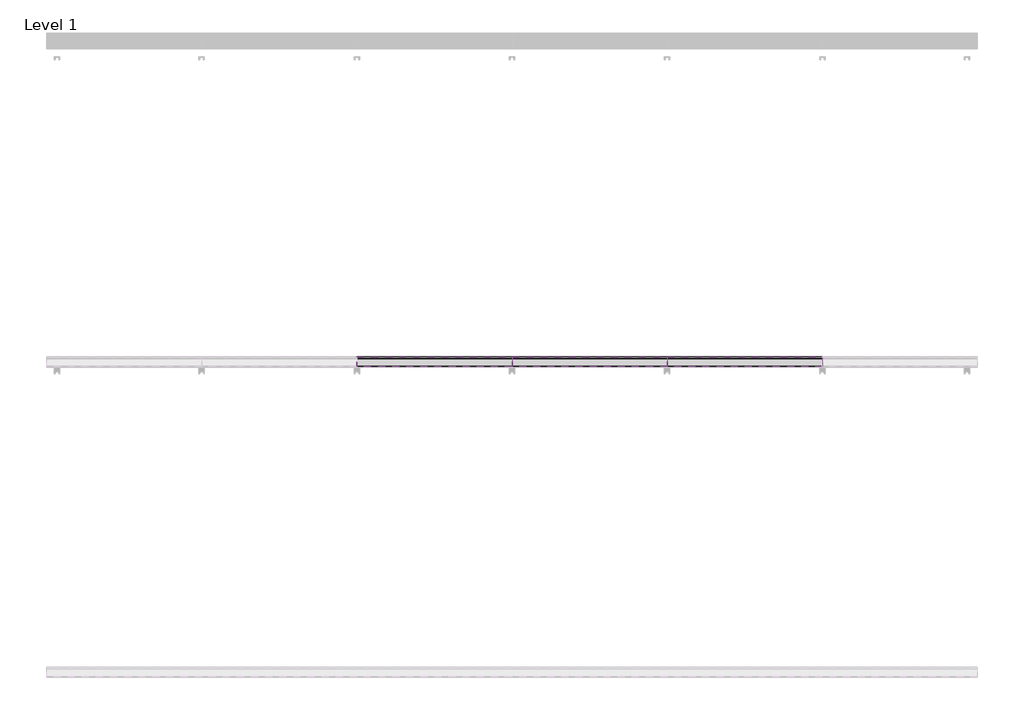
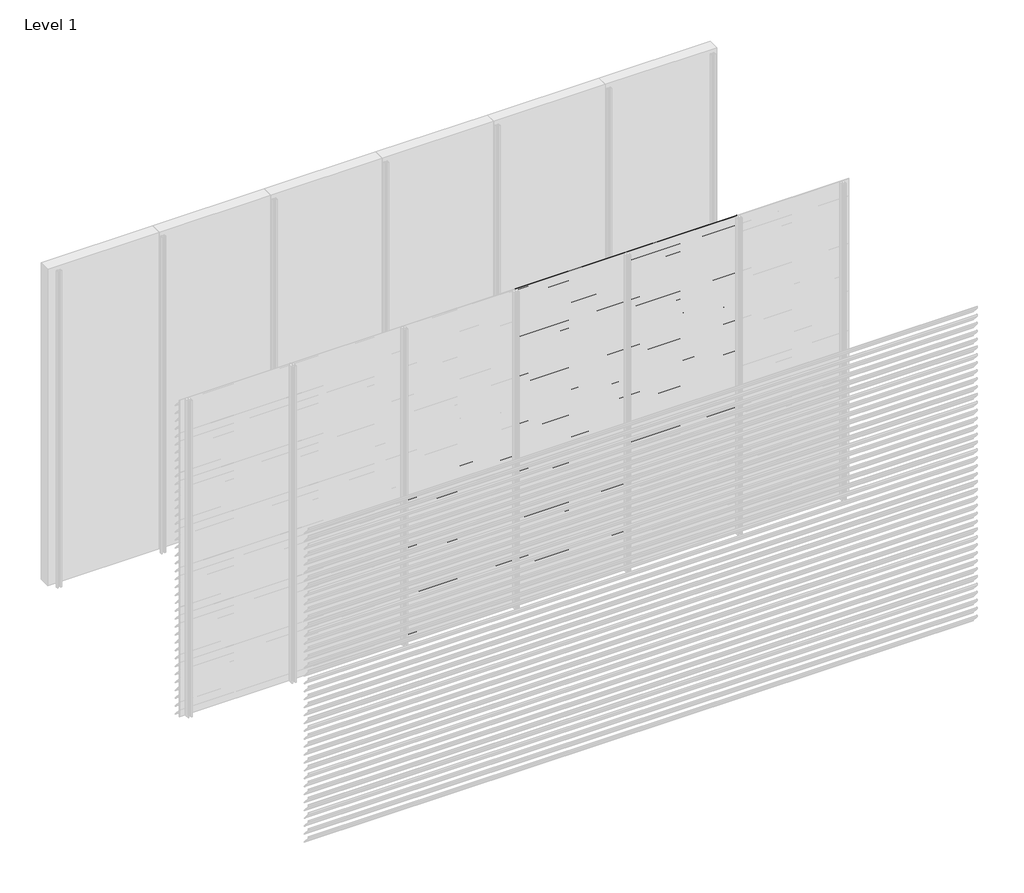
# One storey, part 28 of 35: 86 proxies.
"""IFC4 building model written with IfcOpenShell, lengths in millimetres."""

from ifc_helpers import new_model, si_unit, frame, origin, place, context, project, spatial, polyline, outline, extrude, element, save

model = new_model("IFC4")

# Units and contexts
model_context = context("Model", 3, world=origin())
ifc_project = project(units=[si_unit("LENGTHUNIT", "METRE", prefix="MILLI")], contexts=[model_context])

# Site, building, storey
site = spatial("IfcSite", under=ifc_project)
building = spatial("IfcBuilding", under=site)
storey = spatial("IfcBuildingStorey", under=building, Name="Level 1", Elevation=0.0)

# Proxies
placement = place(None, origin())
element("IfcBuildingElementProxy", 1, Name="Wall Sweeps", at=placement, inside=storey, context=model_context, shape_type="SweptSolid", body=[
    extrude(outline(polyline([(-11996.5, 1575.0), (-11996.5, 1560.5463701), (-11934.5, 1488.9330051), (-11934.5, 1485.4), (-11936.0, 1485.4), (-11936.0, 1488.3738975), (-11998.0, 1559.9872626), (-11998.0, 1575.0), (-11996.5, 1575.0)])), frame((2000.0, 0.0, 0.0), z_axis=(1.0, 0.0, 0.0), x_axis=(0.0, 1.0, 0.0)), (0.0, 0.0, 1.0), 1000.0),
])
element("IfcBuildingElementProxy", 2, Name="Wall Sweeps", at=placement, inside=storey, context=model_context, shape_type="SweptSolid", body=[
    extrude(outline(polyline([(-11996.5, 1500.0), (-11996.5, 1485.5463701), (-11934.5, 1413.9330051), (-11934.5, 1410.4), (-11936.0, 1410.4), (-11936.0, 1413.3738975), (-11998.0, 1484.9872626), (-11998.0, 1500.0), (-11996.5, 1500.0)])), frame((2000.0, 0.0, 0.0), z_axis=(1.0, 0.0, 0.0), x_axis=(0.0, 1.0, 0.0)), (0.0, 0.0, 1.0), 1000.0),
])
element("IfcBuildingElementProxy", 3, Name="Wall Sweeps", at=placement, inside=storey, context=model_context, shape_type="SweptSolid", body=[
    extrude(outline(polyline([(-11996.5, 1425.0), (-11996.5, 1410.5463701), (-11934.5, 1338.9330051), (-11934.5, 1335.4), (-11936.0, 1335.4), (-11936.0, 1338.3738975), (-11998.0, 1409.9872626), (-11998.0, 1425.0), (-11996.5, 1425.0)])), frame((2000.0, 0.0, 0.0), z_axis=(1.0, 0.0, 0.0), x_axis=(0.0, 1.0, 0.0)), (0.0, 0.0, 1.0), 1000.0),
])
element("IfcBuildingElementProxy", 4, Name="Wall Sweeps", at=placement, inside=storey, context=model_context, shape_type="SweptSolid", body=[
    extrude(outline(polyline([(-11996.5, 1350.0), (-11996.5, 1335.5463701), (-11934.5, 1263.9330051), (-11934.5, 1260.4), (-11936.0, 1260.4), (-11936.0, 1263.3738975), (-11998.0, 1334.9872626), (-11998.0, 1350.0), (-11996.5, 1350.0)])), frame((2000.0, 0.0, 0.0), z_axis=(1.0, 0.0, 0.0), x_axis=(0.0, 1.0, 0.0)), (0.0, 0.0, 1.0), 1000.0),
])
element("IfcBuildingElementProxy", 5, Name="Wall Sweeps", at=placement, inside=storey, context=model_context, shape_type="SweptSolid", body=[
    extrude(outline(polyline([(-11996.5, 1275.0), (-11996.5, 1260.5463701), (-11934.5, 1188.9330051), (-11934.5, 1185.4), (-11936.0, 1185.4), (-11936.0, 1188.3738975), (-11998.0, 1259.9872626), (-11998.0, 1275.0), (-11996.5, 1275.0)])), frame((2000.0, 0.0, 0.0), z_axis=(1.0, 0.0, 0.0), x_axis=(0.0, 1.0, 0.0)), (0.0, 0.0, 1.0), 1000.0),
])
element("IfcBuildingElementProxy", 6, Name="Wall Sweeps", at=placement, inside=storey, context=model_context, shape_type="SweptSolid", body=[
    extrude(outline(polyline([(-11996.5, 1200.0), (-11996.5, 1185.5463701), (-11934.5, 1113.9330051), (-11934.5, 1110.4), (-11936.0, 1110.4), (-11936.0, 1113.3738975), (-11998.0, 1184.9872626), (-11998.0, 1200.0), (-11996.5, 1200.0)])), frame((2000.0, 0.0, 0.0), z_axis=(1.0, 0.0, 0.0), x_axis=(0.0, 1.0, 0.0)), (0.0, 0.0, 1.0), 1000.0),
])
element("IfcBuildingElementProxy", 7, Name="Wall Sweeps", at=placement, inside=storey, context=model_context, shape_type="SweptSolid", body=[
    extrude(outline(polyline([(-11996.5, 1125.0), (-11996.5, 1110.5463701), (-11934.5, 1038.9330051), (-11934.5, 1035.4), (-11936.0, 1035.4), (-11936.0, 1038.3738975), (-11998.0, 1109.9872626), (-11998.0, 1125.0), (-11996.5, 1125.0)])), frame((2000.0, 0.0, 0.0), z_axis=(1.0, 0.0, 0.0), x_axis=(0.0, 1.0, 0.0)), (0.0, 0.0, 1.0), 1000.0),
])
element("IfcBuildingElementProxy", 8, Name="Wall Sweeps", at=placement, inside=storey, context=model_context, shape_type="SweptSolid", body=[
    extrude(outline(polyline([(-11996.5, 1050.0), (-11996.5, 1035.5463701), (-11934.5, 963.9330051), (-11934.5, 960.4), (-11936.0, 960.4), (-11936.0, 963.3738975), (-11998.0, 1034.9872626), (-11998.0, 1050.0), (-11996.5, 1050.0)])), frame((2000.0, 0.0, 0.0), z_axis=(1.0, 0.0, 0.0), x_axis=(0.0, 1.0, 0.0)), (0.0, 0.0, 1.0), 1000.0),
])
element("IfcBuildingElementProxy", 9, Name="Wall Sweeps", at=placement, inside=storey, context=model_context, shape_type="SweptSolid", body=[
    extrude(outline(polyline([(-11996.5, 975.0), (-11996.5, 960.5463701), (-11934.5, 888.9330051), (-11934.5, 885.4), (-11936.0, 885.4), (-11936.0, 888.3738975), (-11998.0, 959.9872626), (-11998.0, 975.0), (-11996.5, 975.0)])), frame((2000.0, 0.0, 0.0), z_axis=(1.0, 0.0, 0.0), x_axis=(0.0, 1.0, 0.0)), (0.0, 0.0, 1.0), 1000.0),
])
element("IfcBuildingElementProxy", 10, Name="Wall Sweeps", at=placement, inside=storey, context=model_context, shape_type="SweptSolid", body=[
    extrude(outline(polyline([(-11996.5, 900.0), (-11996.5, 885.5463701), (-11934.5, 813.9330051), (-11934.5, 810.4), (-11936.0, 810.4), (-11936.0, 813.3738975), (-11998.0, 884.9872626), (-11998.0, 900.0), (-11996.5, 900.0)])), frame((2000.0, 0.0, 0.0), z_axis=(1.0, 0.0, 0.0), x_axis=(0.0, 1.0, 0.0)), (0.0, 0.0, 1.0), 1000.0),
])
element("IfcBuildingElementProxy", 11, Name="Wall Sweeps", at=placement, inside=storey, context=model_context, shape_type="SweptSolid", body=[
    extrude(outline(polyline([(-11996.5, 825.0), (-11996.5, 810.5463701), (-11934.5, 738.9330051), (-11934.5, 735.4), (-11936.0, 735.4), (-11936.0, 738.3738975), (-11998.0, 809.9872626), (-11998.0, 825.0), (-11996.5, 825.0)])), frame((2000.0, 0.0, 0.0), z_axis=(1.0, 0.0, 0.0), x_axis=(0.0, 1.0, 0.0)), (0.0, 0.0, 1.0), 1000.0),
])
element("IfcBuildingElementProxy", 12, Name="Wall Sweeps", at=placement, inside=storey, context=model_context, shape_type="SweptSolid", body=[
    extrude(outline(polyline([(-11996.5, 750.0), (-11996.5, 735.5463701), (-11934.5, 663.9330051), (-11934.5, 660.4), (-11936.0, 660.4), (-11936.0, 663.3738975), (-11998.0, 734.9872626), (-11998.0, 750.0), (-11996.5, 750.0)])), frame((2000.0, 0.0, 0.0), z_axis=(1.0, 0.0, 0.0), x_axis=(0.0, 1.0, 0.0)), (0.0, 0.0, 1.0), 1000.0),
])
element("IfcBuildingElementProxy", 13, Name="Wall Sweeps", at=placement, inside=storey, context=model_context, shape_type="SweptSolid", body=[
    extrude(outline(polyline([(-11996.5, 675.0), (-11996.5, 660.5463701), (-11934.5, 588.9330051), (-11934.5, 585.4), (-11936.0, 585.4), (-11936.0, 588.3738975), (-11998.0, 659.9872626), (-11998.0, 675.0), (-11996.5, 675.0)])), frame((2000.0, 0.0, 0.0), z_axis=(1.0, 0.0, 0.0), x_axis=(0.0, 1.0, 0.0)), (0.0, 0.0, 1.0), 1000.0),
])
element("IfcBuildingElementProxy", 14, Name="Wall Sweeps", at=placement, inside=storey, context=model_context, shape_type="SweptSolid", body=[
    extrude(outline(polyline([(-11996.5, 600.0), (-11996.5, 585.5463701), (-11934.5, 513.9330051), (-11934.5, 510.4), (-11936.0, 510.4), (-11936.0, 513.3738975), (-11998.0, 584.9872626), (-11998.0, 600.0), (-11996.5, 600.0)])), frame((2000.0, 0.0, 0.0), z_axis=(1.0, 0.0, 0.0), x_axis=(0.0, 1.0, 0.0)), (0.0, 0.0, 1.0), 1000.0),
])
element("IfcBuildingElementProxy", 15, Name="Wall Sweeps", at=placement, inside=storey, context=model_context, shape_type="SweptSolid", body=[
    extrude(outline(polyline([(-11996.5, 525.0), (-11996.5, 510.5463701), (-11934.5, 438.9330051), (-11934.5, 435.4), (-11936.0, 435.4), (-11936.0, 438.3738975), (-11998.0, 509.9872626), (-11998.0, 525.0), (-11996.5, 525.0)])), frame((2000.0, 0.0, 0.0), z_axis=(1.0, 0.0, 0.0), x_axis=(0.0, 1.0, 0.0)), (0.0, 0.0, 1.0), 1000.0),
])
element("IfcBuildingElementProxy", 16, Name="Wall Sweeps", at=placement, inside=storey, context=model_context, shape_type="SweptSolid", body=[
    extrude(outline(polyline([(-11996.5, 450.0), (-11996.5, 435.5463701), (-11934.5, 363.9330051), (-11934.5, 360.4), (-11936.0, 360.4), (-11936.0, 363.3738975), (-11998.0, 434.9872626), (-11998.0, 450.0), (-11996.5, 450.0)])), frame((2000.0, 0.0, 0.0), z_axis=(1.0, 0.0, 0.0), x_axis=(0.0, 1.0, 0.0)), (0.0, 0.0, 1.0), 1000.0),
])
element("IfcBuildingElementProxy", 17, Name="Wall Sweeps", at=placement, inside=storey, context=model_context, shape_type="SweptSolid", body=[
    extrude(outline(polyline([(-11996.5, 375.0), (-11996.5, 360.5463701), (-11934.5, 288.9330051), (-11934.5, 285.4), (-11936.0, 285.4), (-11936.0, 288.3738975), (-11998.0, 359.9872626), (-11998.0, 375.0), (-11996.5, 375.0)])), frame((2000.0, 0.0, 0.0), z_axis=(1.0, 0.0, 0.0), x_axis=(0.0, 1.0, 0.0)), (0.0, 0.0, 1.0), 1000.0),
])
element("IfcBuildingElementProxy", 18, Name="Wall Sweeps", at=placement, inside=storey, context=model_context, shape_type="SweptSolid", body=[
    extrude(outline(polyline([(-11996.5, 300.0), (-11996.5, 285.5463701), (-11934.5, 213.9330051), (-11934.5, 210.4), (-11936.0, 210.4), (-11936.0, 213.3738975), (-11998.0, 284.9872626), (-11998.0, 300.0), (-11996.5, 300.0)])), frame((2000.0, 0.0, 0.0), z_axis=(1.0, 0.0, 0.0), x_axis=(0.0, 1.0, 0.0)), (0.0, 0.0, 1.0), 1000.0),
])
element("IfcBuildingElementProxy", 19, Name="Wall Sweeps", at=placement, inside=storey, context=model_context, shape_type="SweptSolid", body=[
    extrude(outline(polyline([(-11996.5, 225.0), (-11996.5, 210.5463701), (-11934.5, 138.9330051), (-11934.5, 135.4), (-11936.0, 135.4), (-11936.0, 138.3738975), (-11998.0, 209.9872626), (-11998.0, 225.0), (-11996.5, 225.0)])), frame((2000.0, 0.0, 0.0), z_axis=(1.0, 0.0, 0.0), x_axis=(0.0, 1.0, 0.0)), (0.0, 0.0, 1.0), 1000.0),
])
element("IfcBuildingElementProxy", 20, Name="Wall Sweeps", at=placement, inside=storey, context=model_context, shape_type="SweptSolid", body=[
    extrude(outline(polyline([(-11996.5, 150.0), (-11996.5, 135.5463701), (-11934.5, 63.9330051), (-11934.5, 60.4), (-11936.0, 60.4), (-11936.0, 63.3738975), (-11998.0, 134.9872626), (-11998.0, 150.0), (-11996.5, 150.0)])), frame((2000.0, 0.0, 0.0), z_axis=(1.0, 0.0, 0.0), x_axis=(0.0, 1.0, 0.0)), (0.0, 0.0, 1.0), 1000.0),
])
element("IfcBuildingElementProxy", 21, Name="Wall Sweeps", at=placement, inside=storey, context=model_context, shape_type="SweptSolid", body=[
    extrude(outline(polyline([(-11996.5, 75.0), (-11996.5, 60.5463701), (-11934.5, -11.0669949), (-11934.5, -14.6), (-11936.0, -14.6), (-11936.0, -11.6261025), (-11998.0, 59.9872626), (-11998.0, 75.0), (-11996.5, 75.0)])), frame((2000.0, 0.0, 0.0), z_axis=(1.0, 0.0, 0.0), x_axis=(0.0, 1.0, 0.0)), (0.0, 0.0, 1.0), 1000.0),
])
element("IfcBuildingElementProxy", 22, Name="Wall Sweeps", at=placement, inside=storey, context=model_context, shape_type="SweptSolid", body=[
    extrude(outline(polyline([(-11996.5, 3000.0), (-11996.5, 2985.5463701), (-11934.5, 2913.9330051), (-11934.5, 2910.4), (-11936.0, 2910.4), (-11936.0, 2913.3738975), (-11998.0, 2984.9872626), (-11998.0, 3000.0), (-11996.5, 3000.0)])), frame((3000.0, 0.0, 0.0), z_axis=(1.0, 0.0, 0.0), x_axis=(0.0, 1.0, 0.0)), (0.0, 0.0, 1.0), 1000.0),
])
element("IfcBuildingElementProxy", 23, Name="Wall Sweeps", at=placement, inside=storey, context=model_context, shape_type="SweptSolid", body=[
    extrude(outline(polyline([(-11996.5, 2925.0), (-11996.5, 2910.5463701), (-11934.5, 2838.9330051), (-11934.5, 2835.4), (-11936.0, 2835.4), (-11936.0, 2838.3738975), (-11998.0, 2909.9872626), (-11998.0, 2925.0), (-11996.5, 2925.0)])), frame((3000.0, 0.0, 0.0), z_axis=(1.0, 0.0, 0.0), x_axis=(0.0, 1.0, 0.0)), (0.0, 0.0, 1.0), 1000.0),
])
element("IfcBuildingElementProxy", 24, Name="Wall Sweeps", at=placement, inside=storey, context=model_context, shape_type="SweptSolid", body=[
    extrude(outline(polyline([(-11996.5, 2850.0), (-11996.5, 2835.5463701), (-11934.5, 2763.9330051), (-11934.5, 2760.4), (-11936.0, 2760.4), (-11936.0, 2763.3738975), (-11998.0, 2834.9872626), (-11998.0, 2850.0), (-11996.5, 2850.0)])), frame((3000.0, 0.0, 0.0), z_axis=(1.0, 0.0, 0.0), x_axis=(0.0, 1.0, 0.0)), (0.0, 0.0, 1.0), 1000.0),
])
element("IfcBuildingElementProxy", 25, Name="Wall Sweeps", at=placement, inside=storey, context=model_context, shape_type="SweptSolid", body=[
    extrude(outline(polyline([(-11996.5, 2775.0), (-11996.5, 2760.5463701), (-11934.5, 2688.9330051), (-11934.5, 2685.4), (-11936.0, 2685.4), (-11936.0, 2688.3738975), (-11998.0, 2759.9872626), (-11998.0, 2775.0), (-11996.5, 2775.0)])), frame((3000.0, 0.0, 0.0), z_axis=(1.0, 0.0, 0.0), x_axis=(0.0, 1.0, 0.0)), (0.0, 0.0, 1.0), 1000.0),
])
element("IfcBuildingElementProxy", 26, Name="Wall Sweeps", at=placement, inside=storey, context=model_context, shape_type="SweptSolid", body=[
    extrude(outline(polyline([(-11996.5, 2700.0), (-11996.5, 2685.5463701), (-11934.5, 2613.9330051), (-11934.5, 2610.4), (-11936.0, 2610.4), (-11936.0, 2613.3738975), (-11998.0, 2684.9872626), (-11998.0, 2700.0), (-11996.5, 2700.0)])), frame((3000.0, 0.0, 0.0), z_axis=(1.0, 0.0, 0.0), x_axis=(0.0, 1.0, 0.0)), (0.0, 0.0, 1.0), 1000.0),
])
element("IfcBuildingElementProxy", 27, Name="Wall Sweeps", at=placement, inside=storey, context=model_context, shape_type="SweptSolid", body=[
    extrude(outline(polyline([(-11996.5, 2625.0), (-11996.5, 2610.5463701), (-11934.5, 2538.9330051), (-11934.5, 2535.4), (-11936.0, 2535.4), (-11936.0, 2538.3738975), (-11998.0, 2609.9872626), (-11998.0, 2625.0), (-11996.5, 2625.0)])), frame((3000.0, 0.0, 0.0), z_axis=(1.0, 0.0, 0.0), x_axis=(0.0, 1.0, 0.0)), (0.0, 0.0, 1.0), 1000.0),
])
element("IfcBuildingElementProxy", 28, Name="Wall Sweeps", at=placement, inside=storey, context=model_context, shape_type="SweptSolid", body=[
    extrude(outline(polyline([(-11996.5, 2550.0), (-11996.5, 2535.5463701), (-11934.5, 2463.9330051), (-11934.5, 2460.4), (-11936.0, 2460.4), (-11936.0, 2463.3738975), (-11998.0, 2534.9872626), (-11998.0, 2550.0), (-11996.5, 2550.0)])), frame((3000.0, 0.0, 0.0), z_axis=(1.0, 0.0, 0.0), x_axis=(0.0, 1.0, 0.0)), (0.0, 0.0, 1.0), 1000.0),
])
element("IfcBuildingElementProxy", 29, Name="Wall Sweeps", at=placement, inside=storey, context=model_context, shape_type="SweptSolid", body=[
    extrude(outline(polyline([(-11996.5, 2475.0), (-11996.5, 2460.5463701), (-11934.5, 2388.9330051), (-11934.5, 2385.4), (-11936.0, 2385.4), (-11936.0, 2388.3738975), (-11998.0, 2459.9872626), (-11998.0, 2475.0), (-11996.5, 2475.0)])), frame((3000.0, 0.0, 0.0), z_axis=(1.0, 0.0, 0.0), x_axis=(0.0, 1.0, 0.0)), (0.0, 0.0, 1.0), 1000.0),
])
element("IfcBuildingElementProxy", 30, Name="Wall Sweeps", at=placement, inside=storey, context=model_context, shape_type="SweptSolid", body=[
    extrude(outline(polyline([(-11996.5, 2400.0), (-11996.5, 2385.5463701), (-11934.5, 2313.9330051), (-11934.5, 2310.4), (-11936.0, 2310.4), (-11936.0, 2313.3738975), (-11998.0, 2384.9872626), (-11998.0, 2400.0), (-11996.5, 2400.0)])), frame((3000.0, 0.0, 0.0), z_axis=(1.0, 0.0, 0.0), x_axis=(0.0, 1.0, 0.0)), (0.0, 0.0, 1.0), 1000.0),
])
element("IfcBuildingElementProxy", 31, Name="Wall Sweeps", at=placement, inside=storey, context=model_context, shape_type="SweptSolid", body=[
    extrude(outline(polyline([(-11996.5, 2325.0), (-11996.5, 2310.5463701), (-11934.5, 2238.9330051), (-11934.5, 2235.4), (-11936.0, 2235.4), (-11936.0, 2238.3738975), (-11998.0, 2309.9872626), (-11998.0, 2325.0), (-11996.5, 2325.0)])), frame((3000.0, 0.0, 0.0), z_axis=(1.0, 0.0, 0.0), x_axis=(0.0, 1.0, 0.0)), (0.0, 0.0, 1.0), 1000.0),
])
element("IfcBuildingElementProxy", 32, Name="Wall Sweeps", at=placement, inside=storey, context=model_context, shape_type="SweptSolid", body=[
    extrude(outline(polyline([(-11996.5, 2250.0), (-11996.5, 2235.5463701), (-11934.5, 2163.9330051), (-11934.5, 2160.4), (-11936.0, 2160.4), (-11936.0, 2163.3738975), (-11998.0, 2234.9872626), (-11998.0, 2250.0), (-11996.5, 2250.0)])), frame((3000.0, 0.0, 0.0), z_axis=(1.0, 0.0, 0.0), x_axis=(0.0, 1.0, 0.0)), (0.0, 0.0, 1.0), 1000.0),
])
element("IfcBuildingElementProxy", 33, Name="Wall Sweeps", at=placement, inside=storey, context=model_context, shape_type="SweptSolid", body=[
    extrude(outline(polyline([(-11996.5, 2175.0), (-11996.5, 2160.5463701), (-11934.5, 2088.9330051), (-11934.5, 2085.4), (-11936.0, 2085.4), (-11936.0, 2088.3738975), (-11998.0, 2159.9872626), (-11998.0, 2175.0), (-11996.5, 2175.0)])), frame((3000.0, 0.0, 0.0), z_axis=(1.0, 0.0, 0.0), x_axis=(0.0, 1.0, 0.0)), (0.0, 0.0, 1.0), 1000.0),
])
element("IfcBuildingElementProxy", 34, Name="Wall Sweeps", at=placement, inside=storey, context=model_context, shape_type="SweptSolid", body=[
    extrude(outline(polyline([(-11996.5, 2100.0), (-11996.5, 2085.5463701), (-11934.5, 2013.9330051), (-11934.5, 2010.4), (-11936.0, 2010.4), (-11936.0, 2013.3738975), (-11998.0, 2084.9872626), (-11998.0, 2100.0), (-11996.5, 2100.0)])), frame((3000.0, 0.0, 0.0), z_axis=(1.0, 0.0, 0.0), x_axis=(0.0, 1.0, 0.0)), (0.0, 0.0, 1.0), 1000.0),
])
element("IfcBuildingElementProxy", 35, Name="Wall Sweeps", at=placement, inside=storey, context=model_context, shape_type="SweptSolid", body=[
    extrude(outline(polyline([(-11996.5, 2025.0), (-11996.5, 2010.5463701), (-11934.5, 1938.9330051), (-11934.5, 1935.4), (-11936.0, 1935.4), (-11936.0, 1938.3738975), (-11998.0, 2009.9872626), (-11998.0, 2025.0), (-11996.5, 2025.0)])), frame((3000.0, 0.0, 0.0), z_axis=(1.0, 0.0, 0.0), x_axis=(0.0, 1.0, 0.0)), (0.0, 0.0, 1.0), 1000.0),
])
element("IfcBuildingElementProxy", 36, Name="Wall Sweeps", at=placement, inside=storey, context=model_context, shape_type="SweptSolid", body=[
    extrude(outline(polyline([(-11996.5, 1950.0), (-11996.5, 1935.5463701), (-11934.5, 1863.9330051), (-11934.5, 1860.4), (-11936.0, 1860.4), (-11936.0, 1863.3738975), (-11998.0, 1934.9872626), (-11998.0, 1950.0), (-11996.5, 1950.0)])), frame((3000.0, 0.0, 0.0), z_axis=(1.0, 0.0, 0.0), x_axis=(0.0, 1.0, 0.0)), (0.0, 0.0, 1.0), 1000.0),
])
element("IfcBuildingElementProxy", 37, Name="Wall Sweeps", at=placement, inside=storey, context=model_context, shape_type="SweptSolid", body=[
    extrude(outline(polyline([(-11996.5, 1875.0), (-11996.5, 1860.5463701), (-11934.5, 1788.9330051), (-11934.5, 1785.4), (-11936.0, 1785.4), (-11936.0, 1788.3738975), (-11998.0, 1859.9872626), (-11998.0, 1875.0), (-11996.5, 1875.0)])), frame((3000.0, 0.0, 0.0), z_axis=(1.0, 0.0, 0.0), x_axis=(0.0, 1.0, 0.0)), (0.0, 0.0, 1.0), 1000.0),
])
element("IfcBuildingElementProxy", 38, Name="Wall Sweeps", at=placement, inside=storey, context=model_context, shape_type="SweptSolid", body=[
    extrude(outline(polyline([(-11996.5, 1800.0), (-11996.5, 1785.5463701), (-11934.5, 1713.9330051), (-11934.5, 1710.4), (-11936.0, 1710.4), (-11936.0, 1713.3738975), (-11998.0, 1784.9872626), (-11998.0, 1800.0), (-11996.5, 1800.0)])), frame((3000.0, 0.0, 0.0), z_axis=(1.0, 0.0, 0.0), x_axis=(0.0, 1.0, 0.0)), (0.0, 0.0, 1.0), 1000.0),
])
element("IfcBuildingElementProxy", 39, Name="Wall Sweeps", at=placement, inside=storey, context=model_context, shape_type="SweptSolid", body=[
    extrude(outline(polyline([(-11996.5, 1725.0), (-11996.5, 1710.5463701), (-11934.5, 1638.9330051), (-11934.5, 1635.4), (-11936.0, 1635.4), (-11936.0, 1638.3738975), (-11998.0, 1709.9872626), (-11998.0, 1725.0), (-11996.5, 1725.0)])), frame((3000.0, 0.0, 0.0), z_axis=(1.0, 0.0, 0.0), x_axis=(0.0, 1.0, 0.0)), (0.0, 0.0, 1.0), 1000.0),
])
element("IfcBuildingElementProxy", 40, Name="Wall Sweeps", at=placement, inside=storey, context=model_context, shape_type="SweptSolid", body=[
    extrude(outline(polyline([(-11996.5, 1650.0), (-11996.5, 1635.5463701), (-11934.5, 1563.9330051), (-11934.5, 1560.4), (-11936.0, 1560.4), (-11936.0, 1563.3738975), (-11998.0, 1634.9872626), (-11998.0, 1650.0), (-11996.5, 1650.0)])), frame((3000.0, 0.0, 0.0), z_axis=(1.0, 0.0, 0.0), x_axis=(0.0, 1.0, 0.0)), (0.0, 0.0, 1.0), 1000.0),
])
element("IfcBuildingElementProxy", 41, Name="Wall Sweeps", at=placement, inside=storey, context=model_context, shape_type="SweptSolid", body=[
    extrude(outline(polyline([(-11996.5, 1575.0), (-11996.5, 1560.5463701), (-11934.5, 1488.9330051), (-11934.5, 1485.4), (-11936.0, 1485.4), (-11936.0, 1488.3738975), (-11998.0, 1559.9872626), (-11998.0, 1575.0), (-11996.5, 1575.0)])), frame((3000.0, 0.0, 0.0), z_axis=(1.0, 0.0, 0.0), x_axis=(0.0, 1.0, 0.0)), (0.0, 0.0, 1.0), 1000.0),
])
element("IfcBuildingElementProxy", 42, Name="Wall Sweeps", at=placement, inside=storey, context=model_context, shape_type="SweptSolid", body=[
    extrude(outline(polyline([(-11996.5, 1500.0), (-11996.5, 1485.5463701), (-11934.5, 1413.9330051), (-11934.5, 1410.4), (-11936.0, 1410.4), (-11936.0, 1413.3738975), (-11998.0, 1484.9872626), (-11998.0, 1500.0), (-11996.5, 1500.0)])), frame((3000.0, 0.0, 0.0), z_axis=(1.0, 0.0, 0.0), x_axis=(0.0, 1.0, 0.0)), (0.0, 0.0, 1.0), 1000.0),
])
element("IfcBuildingElementProxy", 43, Name="Wall Sweeps", at=placement, inside=storey, context=model_context, shape_type="SweptSolid", body=[
    extrude(outline(polyline([(-11996.5, 1425.0), (-11996.5, 1410.5463701), (-11934.5, 1338.9330051), (-11934.5, 1335.4), (-11936.0, 1335.4), (-11936.0, 1338.3738975), (-11998.0, 1409.9872626), (-11998.0, 1425.0), (-11996.5, 1425.0)])), frame((3000.0, 0.0, 0.0), z_axis=(1.0, 0.0, 0.0), x_axis=(0.0, 1.0, 0.0)), (0.0, 0.0, 1.0), 1000.0),
])
element("IfcBuildingElementProxy", 44, Name="Wall Sweeps", at=placement, inside=storey, context=model_context, shape_type="SweptSolid", body=[
    extrude(outline(polyline([(-11996.5, 1350.0), (-11996.5, 1335.5463701), (-11934.5, 1263.9330051), (-11934.5, 1260.4), (-11936.0, 1260.4), (-11936.0, 1263.3738975), (-11998.0, 1334.9872626), (-11998.0, 1350.0), (-11996.5, 1350.0)])), frame((3000.0, 0.0, 0.0), z_axis=(1.0, 0.0, 0.0), x_axis=(0.0, 1.0, 0.0)), (0.0, 0.0, 1.0), 1000.0),
])
element("IfcBuildingElementProxy", 45, Name="Wall Sweeps", at=placement, inside=storey, context=model_context, shape_type="SweptSolid", body=[
    extrude(outline(polyline([(-11996.5, 1275.0), (-11996.5, 1260.5463701), (-11934.5, 1188.9330051), (-11934.5, 1185.4), (-11936.0, 1185.4), (-11936.0, 1188.3738975), (-11998.0, 1259.9872626), (-11998.0, 1275.0), (-11996.5, 1275.0)])), frame((3000.0, 0.0, 0.0), z_axis=(1.0, 0.0, 0.0), x_axis=(0.0, 1.0, 0.0)), (0.0, 0.0, 1.0), 1000.0),
])
element("IfcBuildingElementProxy", 46, Name="Wall Sweeps", at=placement, inside=storey, context=model_context, shape_type="SweptSolid", body=[
    extrude(outline(polyline([(-11996.5, 1200.0), (-11996.5, 1185.5463701), (-11934.5, 1113.9330051), (-11934.5, 1110.4), (-11936.0, 1110.4), (-11936.0, 1113.3738975), (-11998.0, 1184.9872626), (-11998.0, 1200.0), (-11996.5, 1200.0)])), frame((3000.0, 0.0, 0.0), z_axis=(1.0, 0.0, 0.0), x_axis=(0.0, 1.0, 0.0)), (0.0, 0.0, 1.0), 1000.0),
])
element("IfcBuildingElementProxy", 47, Name="Wall Sweeps", at=placement, inside=storey, context=model_context, shape_type="SweptSolid", body=[
    extrude(outline(polyline([(-11996.5, 1125.0), (-11996.5, 1110.5463701), (-11934.5, 1038.9330051), (-11934.5, 1035.4), (-11936.0, 1035.4), (-11936.0, 1038.3738975), (-11998.0, 1109.9872626), (-11998.0, 1125.0), (-11996.5, 1125.0)])), frame((3000.0, 0.0, 0.0), z_axis=(1.0, 0.0, 0.0), x_axis=(0.0, 1.0, 0.0)), (0.0, 0.0, 1.0), 1000.0),
])
element("IfcBuildingElementProxy", 48, Name="Wall Sweeps", at=placement, inside=storey, context=model_context, shape_type="SweptSolid", body=[
    extrude(outline(polyline([(-11996.5, 1050.0), (-11996.5, 1035.5463701), (-11934.5, 963.9330051), (-11934.5, 960.4), (-11936.0, 960.4), (-11936.0, 963.3738975), (-11998.0, 1034.9872626), (-11998.0, 1050.0), (-11996.5, 1050.0)])), frame((3000.0, 0.0, 0.0), z_axis=(1.0, 0.0, 0.0), x_axis=(0.0, 1.0, 0.0)), (0.0, 0.0, 1.0), 1000.0),
])
element("IfcBuildingElementProxy", 49, Name="Wall Sweeps", at=placement, inside=storey, context=model_context, shape_type="SweptSolid", body=[
    extrude(outline(polyline([(-11996.5, 975.0), (-11996.5, 960.5463701), (-11934.5, 888.9330051), (-11934.5, 885.4), (-11936.0, 885.4), (-11936.0, 888.3738975), (-11998.0, 959.9872626), (-11998.0, 975.0), (-11996.5, 975.0)])), frame((3000.0, 0.0, 0.0), z_axis=(1.0, 0.0, 0.0), x_axis=(0.0, 1.0, 0.0)), (0.0, 0.0, 1.0), 1000.0),
])
element("IfcBuildingElementProxy", 50, Name="Wall Sweeps", at=placement, inside=storey, context=model_context, shape_type="SweptSolid", body=[
    extrude(outline(polyline([(-11996.5, 900.0), (-11996.5, 885.5463701), (-11934.5, 813.9330051), (-11934.5, 810.4), (-11936.0, 810.4), (-11936.0, 813.3738975), (-11998.0, 884.9872626), (-11998.0, 900.0), (-11996.5, 900.0)])), frame((3000.0, 0.0, 0.0), z_axis=(1.0, 0.0, 0.0), x_axis=(0.0, 1.0, 0.0)), (0.0, 0.0, 1.0), 1000.0),
])
element("IfcBuildingElementProxy", 51, Name="Wall Sweeps", at=placement, inside=storey, context=model_context, shape_type="SweptSolid", body=[
    extrude(outline(polyline([(-11996.5, 825.0), (-11996.5, 810.5463701), (-11934.5, 738.9330051), (-11934.5, 735.4), (-11936.0, 735.4), (-11936.0, 738.3738975), (-11998.0, 809.9872626), (-11998.0, 825.0), (-11996.5, 825.0)])), frame((3000.0, 0.0, 0.0), z_axis=(1.0, 0.0, 0.0), x_axis=(0.0, 1.0, 0.0)), (0.0, 0.0, 1.0), 1000.0),
])
element("IfcBuildingElementProxy", 52, Name="Wall Sweeps", at=placement, inside=storey, context=model_context, shape_type="SweptSolid", body=[
    extrude(outline(polyline([(-11996.5, 750.0), (-11996.5, 735.5463701), (-11934.5, 663.9330051), (-11934.5, 660.4), (-11936.0, 660.4), (-11936.0, 663.3738975), (-11998.0, 734.9872626), (-11998.0, 750.0), (-11996.5, 750.0)])), frame((3000.0, 0.0, 0.0), z_axis=(1.0, 0.0, 0.0), x_axis=(0.0, 1.0, 0.0)), (0.0, 0.0, 1.0), 1000.0),
])
element("IfcBuildingElementProxy", 53, Name="Wall Sweeps", at=placement, inside=storey, context=model_context, shape_type="SweptSolid", body=[
    extrude(outline(polyline([(-11996.5, 675.0), (-11996.5, 660.5463701), (-11934.5, 588.9330051), (-11934.5, 585.4), (-11936.0, 585.4), (-11936.0, 588.3738975), (-11998.0, 659.9872626), (-11998.0, 675.0), (-11996.5, 675.0)])), frame((3000.0, 0.0, 0.0), z_axis=(1.0, 0.0, 0.0), x_axis=(0.0, 1.0, 0.0)), (0.0, 0.0, 1.0), 1000.0),
])
element("IfcBuildingElementProxy", 54, Name="Wall Sweeps", at=placement, inside=storey, context=model_context, shape_type="SweptSolid", body=[
    extrude(outline(polyline([(-11996.5, 600.0), (-11996.5, 585.5463701), (-11934.5, 513.9330051), (-11934.5, 510.4), (-11936.0, 510.4), (-11936.0, 513.3738975), (-11998.0, 584.9872626), (-11998.0, 600.0), (-11996.5, 600.0)])), frame((3000.0, 0.0, 0.0), z_axis=(1.0, 0.0, 0.0), x_axis=(0.0, 1.0, 0.0)), (0.0, 0.0, 1.0), 1000.0),
])
element("IfcBuildingElementProxy", 55, Name="Wall Sweeps", at=placement, inside=storey, context=model_context, shape_type="SweptSolid", body=[
    extrude(outline(polyline([(-11996.5, 525.0), (-11996.5, 510.5463701), (-11934.5, 438.9330051), (-11934.5, 435.4), (-11936.0, 435.4), (-11936.0, 438.3738975), (-11998.0, 509.9872626), (-11998.0, 525.0), (-11996.5, 525.0)])), frame((3000.0, 0.0, 0.0), z_axis=(1.0, 0.0, 0.0), x_axis=(0.0, 1.0, 0.0)), (0.0, 0.0, 1.0), 1000.0),
])
element("IfcBuildingElementProxy", 56, Name="Wall Sweeps", at=placement, inside=storey, context=model_context, shape_type="SweptSolid", body=[
    extrude(outline(polyline([(-11996.5, 450.0), (-11996.5, 435.5463701), (-11934.5, 363.9330051), (-11934.5, 360.4), (-11936.0, 360.4), (-11936.0, 363.3738975), (-11998.0, 434.9872626), (-11998.0, 450.0), (-11996.5, 450.0)])), frame((3000.0, 0.0, 0.0), z_axis=(1.0, 0.0, 0.0), x_axis=(0.0, 1.0, 0.0)), (0.0, 0.0, 1.0), 1000.0),
])
element("IfcBuildingElementProxy", 57, Name="Wall Sweeps", at=placement, inside=storey, context=model_context, shape_type="SweptSolid", body=[
    extrude(outline(polyline([(-11996.5, 375.0), (-11996.5, 360.5463701), (-11934.5, 288.9330051), (-11934.5, 285.4), (-11936.0, 285.4), (-11936.0, 288.3738975), (-11998.0, 359.9872626), (-11998.0, 375.0), (-11996.5, 375.0)])), frame((3000.0, 0.0, 0.0), z_axis=(1.0, 0.0, 0.0), x_axis=(0.0, 1.0, 0.0)), (0.0, 0.0, 1.0), 1000.0),
])
element("IfcBuildingElementProxy", 58, Name="Wall Sweeps", at=placement, inside=storey, context=model_context, shape_type="SweptSolid", body=[
    extrude(outline(polyline([(-11996.5, 300.0), (-11996.5, 285.5463701), (-11934.5, 213.9330051), (-11934.5, 210.4), (-11936.0, 210.4), (-11936.0, 213.3738975), (-11998.0, 284.9872626), (-11998.0, 300.0), (-11996.5, 300.0)])), frame((3000.0, 0.0, 0.0), z_axis=(1.0, 0.0, 0.0), x_axis=(0.0, 1.0, 0.0)), (0.0, 0.0, 1.0), 1000.0),
])
element("IfcBuildingElementProxy", 59, Name="Wall Sweeps", at=placement, inside=storey, context=model_context, shape_type="SweptSolid", body=[
    extrude(outline(polyline([(-11996.5, 225.0), (-11996.5, 210.5463701), (-11934.5, 138.9330051), (-11934.5, 135.4), (-11936.0, 135.4), (-11936.0, 138.3738975), (-11998.0, 209.9872626), (-11998.0, 225.0), (-11996.5, 225.0)])), frame((3000.0, 0.0, 0.0), z_axis=(1.0, 0.0, 0.0), x_axis=(0.0, 1.0, 0.0)), (0.0, 0.0, 1.0), 1000.0),
])
element("IfcBuildingElementProxy", 60, Name="Wall Sweeps", at=placement, inside=storey, context=model_context, shape_type="SweptSolid", body=[
    extrude(outline(polyline([(-11996.5, 150.0), (-11996.5, 135.5463701), (-11934.5, 63.9330051), (-11934.5, 60.4), (-11936.0, 60.4), (-11936.0, 63.3738975), (-11998.0, 134.9872626), (-11998.0, 150.0), (-11996.5, 150.0)])), frame((3000.0, 0.0, 0.0), z_axis=(1.0, 0.0, 0.0), x_axis=(0.0, 1.0, 0.0)), (0.0, 0.0, 1.0), 1000.0),
])
element("IfcBuildingElementProxy", 61, Name="Wall Sweeps", at=placement, inside=storey, context=model_context, shape_type="SweptSolid", body=[
    extrude(outline(polyline([(-11996.5, 75.0), (-11996.5, 60.5463701), (-11934.5, -11.0669949), (-11934.5, -14.6), (-11936.0, -14.6), (-11936.0, -11.6261025), (-11998.0, 59.9872626), (-11998.0, 75.0), (-11996.5, 75.0)])), frame((3000.0, 0.0, 0.0), z_axis=(1.0, 0.0, 0.0), x_axis=(0.0, 1.0, 0.0)), (0.0, 0.0, 1.0), 1000.0),
])
element("IfcBuildingElementProxy", 62, Name="Wall Sweeps", at=placement, inside=storey, context=model_context, shape_type="SweptSolid", body=[
    extrude(outline(polyline([(-11996.5, 3000.0), (-11996.5, 2985.5463701), (-11934.5, 2913.9330051), (-11934.5, 2910.4), (-11936.0, 2910.4), (-11936.0, 2913.3738975), (-11998.0, 2984.9872626), (-11998.0, 3000.0), (-11996.5, 3000.0)])), frame((4000.0, 0.0, 0.0), z_axis=(1.0, 0.0, 0.0), x_axis=(0.0, 1.0, 0.0)), (0.0, 0.0, 1.0), 1000.0),
])
element("IfcBuildingElementProxy", 63, Name="Wall Sweeps", at=placement, inside=storey, context=model_context, shape_type="SweptSolid", body=[
    extrude(outline(polyline([(-11996.5, 2925.0), (-11996.5, 2910.5463701), (-11934.5, 2838.9330051), (-11934.5, 2835.4), (-11936.0, 2835.4), (-11936.0, 2838.3738975), (-11998.0, 2909.9872626), (-11998.0, 2925.0), (-11996.5, 2925.0)])), frame((4000.0, 0.0, 0.0), z_axis=(1.0, 0.0, 0.0), x_axis=(0.0, 1.0, 0.0)), (0.0, 0.0, 1.0), 1000.0),
])
element("IfcBuildingElementProxy", 64, Name="Wall Sweeps", at=placement, inside=storey, context=model_context, shape_type="SweptSolid", body=[
    extrude(outline(polyline([(-11996.5, 2850.0), (-11996.5, 2835.5463701), (-11934.5, 2763.9330051), (-11934.5, 2760.4), (-11936.0, 2760.4), (-11936.0, 2763.3738975), (-11998.0, 2834.9872626), (-11998.0, 2850.0), (-11996.5, 2850.0)])), frame((4000.0, 0.0, 0.0), z_axis=(1.0, 0.0, 0.0), x_axis=(0.0, 1.0, 0.0)), (0.0, 0.0, 1.0), 1000.0),
])
element("IfcBuildingElementProxy", 65, Name="Wall Sweeps", at=placement, inside=storey, context=model_context, shape_type="SweptSolid", body=[
    extrude(outline(polyline([(-11996.5, 2775.0), (-11996.5, 2760.5463701), (-11934.5, 2688.9330051), (-11934.5, 2685.4), (-11936.0, 2685.4), (-11936.0, 2688.3738975), (-11998.0, 2759.9872626), (-11998.0, 2775.0), (-11996.5, 2775.0)])), frame((4000.0, 0.0, 0.0), z_axis=(1.0, 0.0, 0.0), x_axis=(0.0, 1.0, 0.0)), (0.0, 0.0, 1.0), 1000.0),
])
element("IfcBuildingElementProxy", 66, Name="Wall Sweeps", at=placement, inside=storey, context=model_context, shape_type="SweptSolid", body=[
    extrude(outline(polyline([(-11996.5, 2700.0), (-11996.5, 2685.5463701), (-11934.5, 2613.9330051), (-11934.5, 2610.4), (-11936.0, 2610.4), (-11936.0, 2613.3738975), (-11998.0, 2684.9872626), (-11998.0, 2700.0), (-11996.5, 2700.0)])), frame((4000.0, 0.0, 0.0), z_axis=(1.0, 0.0, 0.0), x_axis=(0.0, 1.0, 0.0)), (0.0, 0.0, 1.0), 1000.0),
])
element("IfcBuildingElementProxy", 67, Name="Wall Sweeps", at=placement, inside=storey, context=model_context, shape_type="SweptSolid", body=[
    extrude(outline(polyline([(-11996.5, 2625.0), (-11996.5, 2610.5463701), (-11934.5, 2538.9330051), (-11934.5, 2535.4), (-11936.0, 2535.4), (-11936.0, 2538.3738975), (-11998.0, 2609.9872626), (-11998.0, 2625.0), (-11996.5, 2625.0)])), frame((4000.0, 0.0, 0.0), z_axis=(1.0, 0.0, 0.0), x_axis=(0.0, 1.0, 0.0)), (0.0, 0.0, 1.0), 1000.0),
])
element("IfcBuildingElementProxy", 68, Name="Wall Sweeps", at=placement, inside=storey, context=model_context, shape_type="SweptSolid", body=[
    extrude(outline(polyline([(-11996.5, 2550.0), (-11996.5, 2535.5463701), (-11934.5, 2463.9330051), (-11934.5, 2460.4), (-11936.0, 2460.4), (-11936.0, 2463.3738975), (-11998.0, 2534.9872626), (-11998.0, 2550.0), (-11996.5, 2550.0)])), frame((4000.0, 0.0, 0.0), z_axis=(1.0, 0.0, 0.0), x_axis=(0.0, 1.0, 0.0)), (0.0, 0.0, 1.0), 1000.0),
])
element("IfcBuildingElementProxy", 69, Name="Wall Sweeps", at=placement, inside=storey, context=model_context, shape_type="SweptSolid", body=[
    extrude(outline(polyline([(-11996.5, 2475.0), (-11996.5, 2460.5463701), (-11934.5, 2388.9330051), (-11934.5, 2385.4), (-11936.0, 2385.4), (-11936.0, 2388.3738975), (-11998.0, 2459.9872626), (-11998.0, 2475.0), (-11996.5, 2475.0)])), frame((4000.0, 0.0, 0.0), z_axis=(1.0, 0.0, 0.0), x_axis=(0.0, 1.0, 0.0)), (0.0, 0.0, 1.0), 1000.0),
])
element("IfcBuildingElementProxy", 70, Name="Wall Sweeps", at=placement, inside=storey, context=model_context, shape_type="SweptSolid", body=[
    extrude(outline(polyline([(-11996.5, 2400.0), (-11996.5, 2385.5463701), (-11934.5, 2313.9330051), (-11934.5, 2310.4), (-11936.0, 2310.4), (-11936.0, 2313.3738975), (-11998.0, 2384.9872626), (-11998.0, 2400.0), (-11996.5, 2400.0)])), frame((4000.0, 0.0, 0.0), z_axis=(1.0, 0.0, 0.0), x_axis=(0.0, 1.0, 0.0)), (0.0, 0.0, 1.0), 1000.0),
])
element("IfcBuildingElementProxy", 71, Name="Wall Sweeps", at=placement, inside=storey, context=model_context, shape_type="SweptSolid", body=[
    extrude(outline(polyline([(-11996.5, 2325.0), (-11996.5, 2310.5463701), (-11934.5, 2238.9330051), (-11934.5, 2235.4), (-11936.0, 2235.4), (-11936.0, 2238.3738975), (-11998.0, 2309.9872626), (-11998.0, 2325.0), (-11996.5, 2325.0)])), frame((4000.0, 0.0, 0.0), z_axis=(1.0, 0.0, 0.0), x_axis=(0.0, 1.0, 0.0)), (0.0, 0.0, 1.0), 1000.0),
])
element("IfcBuildingElementProxy", 72, Name="Wall Sweeps", at=placement, inside=storey, context=model_context, shape_type="SweptSolid", body=[
    extrude(outline(polyline([(-11996.5, 2250.0), (-11996.5, 2235.5463701), (-11934.5, 2163.9330051), (-11934.5, 2160.4), (-11936.0, 2160.4), (-11936.0, 2163.3738975), (-11998.0, 2234.9872626), (-11998.0, 2250.0), (-11996.5, 2250.0)])), frame((4000.0, 0.0, 0.0), z_axis=(1.0, 0.0, 0.0), x_axis=(0.0, 1.0, 0.0)), (0.0, 0.0, 1.0), 1000.0),
])
element("IfcBuildingElementProxy", 73, Name="Wall Sweeps", at=placement, inside=storey, context=model_context, shape_type="SweptSolid", body=[
    extrude(outline(polyline([(-11996.5, 2175.0), (-11996.5, 2160.5463701), (-11934.5, 2088.9330051), (-11934.5, 2085.4), (-11936.0, 2085.4), (-11936.0, 2088.3738975), (-11998.0, 2159.9872626), (-11998.0, 2175.0), (-11996.5, 2175.0)])), frame((4000.0, 0.0, 0.0), z_axis=(1.0, 0.0, 0.0), x_axis=(0.0, 1.0, 0.0)), (0.0, 0.0, 1.0), 1000.0),
])
element("IfcBuildingElementProxy", 74, Name="Wall Sweeps", at=placement, inside=storey, context=model_context, shape_type="SweptSolid", body=[
    extrude(outline(polyline([(-11996.5, 2100.0), (-11996.5, 2085.5463701), (-11934.5, 2013.9330051), (-11934.5, 2010.4), (-11936.0, 2010.4), (-11936.0, 2013.3738975), (-11998.0, 2084.9872626), (-11998.0, 2100.0), (-11996.5, 2100.0)])), frame((4000.0, 0.0, 0.0), z_axis=(1.0, 0.0, 0.0), x_axis=(0.0, 1.0, 0.0)), (0.0, 0.0, 1.0), 1000.0),
])
element("IfcBuildingElementProxy", 75, Name="Wall Sweeps", at=placement, inside=storey, context=model_context, shape_type="SweptSolid", body=[
    extrude(outline(polyline([(-11996.5, 2025.0), (-11996.5, 2010.5463701), (-11934.5, 1938.9330051), (-11934.5, 1935.4), (-11936.0, 1935.4), (-11936.0, 1938.3738975), (-11998.0, 2009.9872626), (-11998.0, 2025.0), (-11996.5, 2025.0)])), frame((4000.0, 0.0, 0.0), z_axis=(1.0, 0.0, 0.0), x_axis=(0.0, 1.0, 0.0)), (0.0, 0.0, 1.0), 1000.0),
])
element("IfcBuildingElementProxy", 76, Name="Wall Sweeps", at=placement, inside=storey, context=model_context, shape_type="SweptSolid", body=[
    extrude(outline(polyline([(-11996.5, 1950.0), (-11996.5, 1935.5463701), (-11934.5, 1863.9330051), (-11934.5, 1860.4), (-11936.0, 1860.4), (-11936.0, 1863.3738975), (-11998.0, 1934.9872626), (-11998.0, 1950.0), (-11996.5, 1950.0)])), frame((4000.0, 0.0, 0.0), z_axis=(1.0, 0.0, 0.0), x_axis=(0.0, 1.0, 0.0)), (0.0, 0.0, 1.0), 1000.0),
])
element("IfcBuildingElementProxy", 77, Name="Wall Sweeps", at=placement, inside=storey, context=model_context, shape_type="SweptSolid", body=[
    extrude(outline(polyline([(-11996.5, 1875.0), (-11996.5, 1860.5463701), (-11934.5, 1788.9330051), (-11934.5, 1785.4), (-11936.0, 1785.4), (-11936.0, 1788.3738975), (-11998.0, 1859.9872626), (-11998.0, 1875.0), (-11996.5, 1875.0)])), frame((4000.0, 0.0, 0.0), z_axis=(1.0, 0.0, 0.0), x_axis=(0.0, 1.0, 0.0)), (0.0, 0.0, 1.0), 1000.0),
])
element("IfcBuildingElementProxy", 78, Name="Wall Sweeps", at=placement, inside=storey, context=model_context, shape_type="SweptSolid", body=[
    extrude(outline(polyline([(-11996.5, 1800.0), (-11996.5, 1785.5463701), (-11934.5, 1713.9330051), (-11934.5, 1710.4), (-11936.0, 1710.4), (-11936.0, 1713.3738975), (-11998.0, 1784.9872626), (-11998.0, 1800.0), (-11996.5, 1800.0)])), frame((4000.0, 0.0, 0.0), z_axis=(1.0, 0.0, 0.0), x_axis=(0.0, 1.0, 0.0)), (0.0, 0.0, 1.0), 1000.0),
])
element("IfcBuildingElementProxy", 79, Name="Wall Sweeps", at=placement, inside=storey, context=model_context, shape_type="SweptSolid", body=[
    extrude(outline(polyline([(-11996.5, 1725.0), (-11996.5, 1710.5463701), (-11934.5, 1638.9330051), (-11934.5, 1635.4), (-11936.0, 1635.4), (-11936.0, 1638.3738975), (-11998.0, 1709.9872626), (-11998.0, 1725.0), (-11996.5, 1725.0)])), frame((4000.0, 0.0, 0.0), z_axis=(1.0, 0.0, 0.0), x_axis=(0.0, 1.0, 0.0)), (0.0, 0.0, 1.0), 1000.0),
])
element("IfcBuildingElementProxy", 80, Name="Wall Sweeps", at=placement, inside=storey, context=model_context, shape_type="SweptSolid", body=[
    extrude(outline(polyline([(-11996.5, 1650.0), (-11996.5, 1635.5463701), (-11934.5, 1563.9330051), (-11934.5, 1560.4), (-11936.0, 1560.4), (-11936.0, 1563.3738975), (-11998.0, 1634.9872626), (-11998.0, 1650.0), (-11996.5, 1650.0)])), frame((4000.0, 0.0, 0.0), z_axis=(1.0, 0.0, 0.0), x_axis=(0.0, 1.0, 0.0)), (0.0, 0.0, 1.0), 1000.0),
])
element("IfcBuildingElementProxy", 81, Name="Wall Sweeps", at=placement, inside=storey, context=model_context, shape_type="SweptSolid", body=[
    extrude(outline(polyline([(-11996.5, 1575.0), (-11996.5, 1560.5463701), (-11934.5, 1488.9330051), (-11934.5, 1485.4), (-11936.0, 1485.4), (-11936.0, 1488.3738975), (-11998.0, 1559.9872626), (-11998.0, 1575.0), (-11996.5, 1575.0)])), frame((4000.0, 0.0, 0.0), z_axis=(1.0, 0.0, 0.0), x_axis=(0.0, 1.0, 0.0)), (0.0, 0.0, 1.0), 1000.0),
])
element("IfcBuildingElementProxy", 82, Name="Wall Sweeps", at=placement, inside=storey, context=model_context, shape_type="SweptSolid", body=[
    extrude(outline(polyline([(-11996.5, 1500.0), (-11996.5, 1485.5463701), (-11934.5, 1413.9330051), (-11934.5, 1410.4), (-11936.0, 1410.4), (-11936.0, 1413.3738975), (-11998.0, 1484.9872626), (-11998.0, 1500.0), (-11996.5, 1500.0)])), frame((4000.0, 0.0, 0.0), z_axis=(1.0, 0.0, 0.0), x_axis=(0.0, 1.0, 0.0)), (0.0, 0.0, 1.0), 1000.0),
])
element("IfcBuildingElementProxy", 83, Name="Wall Sweeps", at=placement, inside=storey, context=model_context, shape_type="SweptSolid", body=[
    extrude(outline(polyline([(-11996.5, 1425.0), (-11996.5, 1410.5463701), (-11934.5, 1338.9330051), (-11934.5, 1335.4), (-11936.0, 1335.4), (-11936.0, 1338.3738975), (-11998.0, 1409.9872626), (-11998.0, 1425.0), (-11996.5, 1425.0)])), frame((4000.0, 0.0, 0.0), z_axis=(1.0, 0.0, 0.0), x_axis=(0.0, 1.0, 0.0)), (0.0, 0.0, 1.0), 1000.0),
])
element("IfcBuildingElementProxy", 84, Name="Wall Sweeps", at=placement, inside=storey, context=model_context, shape_type="SweptSolid", body=[
    extrude(outline(polyline([(-11996.5, 1350.0), (-11996.5, 1335.5463701), (-11934.5, 1263.9330051), (-11934.5, 1260.4), (-11936.0, 1260.4), (-11936.0, 1263.3738975), (-11998.0, 1334.9872626), (-11998.0, 1350.0), (-11996.5, 1350.0)])), frame((4000.0, 0.0, 0.0), z_axis=(1.0, 0.0, 0.0), x_axis=(0.0, 1.0, 0.0)), (0.0, 0.0, 1.0), 1000.0),
])
element("IfcBuildingElementProxy", 85, Name="Wall Sweeps", at=placement, inside=storey, context=model_context, shape_type="SweptSolid", body=[
    extrude(outline(polyline([(-11996.5, 1275.0), (-11996.5, 1260.5463701), (-11934.5, 1188.9330051), (-11934.5, 1185.4), (-11936.0, 1185.4), (-11936.0, 1188.3738975), (-11998.0, 1259.9872626), (-11998.0, 1275.0), (-11996.5, 1275.0)])), frame((4000.0, 0.0, 0.0), z_axis=(1.0, 0.0, 0.0), x_axis=(0.0, 1.0, 0.0)), (0.0, 0.0, 1.0), 1000.0),
])
element("IfcBuildingElementProxy", 86, Name="Wall Sweeps", at=placement, inside=storey, context=model_context, shape_type="SweptSolid", body=[
    extrude(outline(polyline([(-11996.5, 1200.0), (-11996.5, 1185.5463701), (-11934.5, 1113.9330051), (-11934.5, 1110.4), (-11936.0, 1110.4), (-11936.0, 1113.3738975), (-11998.0, 1184.9872626), (-11998.0, 1200.0), (-11996.5, 1200.0)])), frame((4000.0, 0.0, 0.0), z_axis=(1.0, 0.0, 0.0), x_axis=(0.0, 1.0, 0.0)), (0.0, 0.0, 1.0), 1000.0),
])

save(model, "model.ifc")
